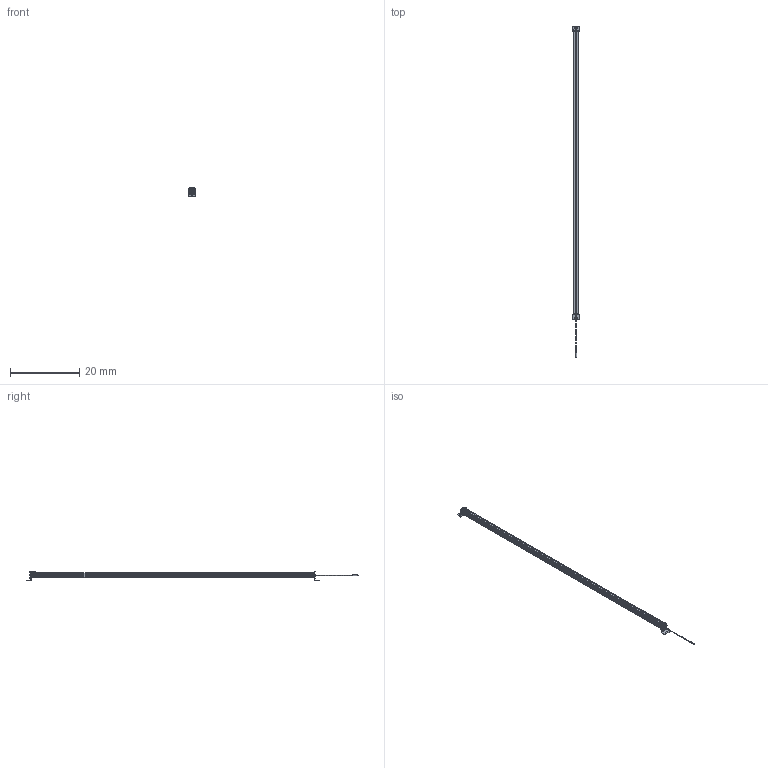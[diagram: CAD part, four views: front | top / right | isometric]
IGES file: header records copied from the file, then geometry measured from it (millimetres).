
Start section:  Autodesk DirectConnect version 7.0.27.0 ---- IGES version 5.3
Global section: file name: C:\ACADFILES\SS_PYLONS\CUSTOMER_FILES\SS-80-PYLON_3D_SMB.iges; native system: Autodesk DirectConnect 7.0.27.0; preprocessor: 7.0.27.0; author: ENGINEERMAIN; organization: Unknown; date: 20150810.130324; units: millimetre
Bounding box: 2.26 x 96.01 x 2.75 mm (x, y, z)
Surface area: 1238.2 mm2 (no closed solid volume)
Topology: 0 solids, 0 shells, 754 faces, 3833 edges, 3829 vertices
Faces by surface type: bspline 754
